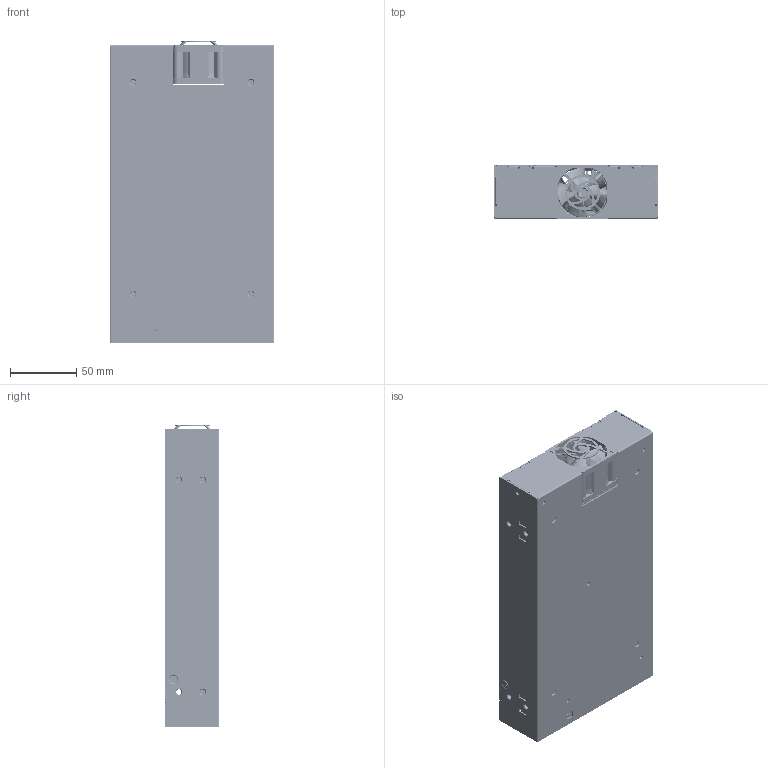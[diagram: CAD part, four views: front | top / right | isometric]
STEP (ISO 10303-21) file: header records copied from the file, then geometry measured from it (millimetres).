
FILE_DESCRIPTION((''),'2;1');
FILE_NAME('600W_ASM','2023-11-20T17:43:19',('EUNICE.HUANG'),(''),'CREO PARAMETRIC BY PTC INC, 2020053','CREO PARAMETRIC BY PTC INC, 2020053','');
FILE_SCHEMA(('CONFIG_CONTROL_DESIGN','GEOMETRIC_VALIDATION_PROPERTIES_MIM'));
Products named in the file (584): CHASSIS; STANF-OFF-M3-4_3; STANF-OFF-M3_5_5; 324859810000; 330848870000_ASM; 330848850000; 324859800000; COVER_ASM; IMPELLER; 4028AIFRAME; 4028SERIES_B-ASM_ASM; 4028SERIES-ASM_ASM; BOARD; 3466844702; TM104-3466844702_ASM; TM104_ASM; CX1-1604218A73; CX1_ASM; 3466635800-21431; 3466635800-21421_ASM; TM102_ASM; 3466584500; TM103-3466584500_ASM; TM103_ASM; RL1-0720725197; RL1_ASM; 1552491286-26536; 1552491286-26526_ASM; C40_ASM; 2921994000; FB43_ASM; 145411810240_L_1; 145411810240_L_2; 145411810240_L_3; 145411810240_L_ASM; C1_ASM; C7_ASM; C9_ASM; 3411010800; J12_ASM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
Assembly tree (905 placements, depth 9):
  600W_ASM
    330848870000_ASM
      CHASSIS
      STANF-OFF-M3-4_3  x3
      STANF-OFF-M3_5_5  x2
      324859810000
    COVER_ASM
      330848850000
      324859800000
    4028SERIES-ASM_ASM
      4028SERIES_B-ASM_ASM
        IMPELLER
        4028AIFRAME
    PMR-12V600W1BTR2C0-1227-3_ASM
      PCB_ASM
        BOARD
        TM104_ASM
          TM104-3466844702_ASM
            3466844702
        CX1_ASM
          CX1-1604218A73
        TM102_ASM
          3466635800-21421_ASM
            3466635800-21431
        TM103_ASM
          TM103-3466584500_ASM
            3466584500
        RL1_ASM
          RL1-0720725197
        C40_ASM
          1552491286-26526_ASM
            1552491286-26536
        FB43_ASM
          2921994000
        C1_ASM
          145411810240_L_ASM
            145411810240_L_1
            145411810240_L_2
            145411810240_L_3
        C7_ASM
          1552491286-26526_ASM
            1552491286-26536
        C9_ASM
          1552491286-26526_ASM
            1552491286-26536
        J12_ASM
          3411010800
        C2_ASM
          145411810240_L_ASM
            145411810240_L_1
            145411810240_L_2
            145411810240_L_3
        D105_ASM
          204840750107
        J36_ASM
          3411010400
        CY5_ASM
          _CY5CY6-110134926400
        FB54_ASM
          0343270142_ASM
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Bounding box: 124 x 41 x 228.5 mm (x, y, z)
Volume: 299026.8 mm3; surface area: 494218.2 mm2
Topology: 637 solids, 637 shells, 22084 faces, 58463 edges, 37320 vertices
Faces by surface type: plane 11722, cylinder 6836, torus 1925, bspline 1135, cone 258, sphere 151, extrusion 29, revolution 28
Entity records: 618915 total; most frequent: CARTESIAN_POINT 178492, ORIENTED_EDGE 67036, DIRECTION 65971, EDGE_CURVE 33518, PRESENTATION_STYLE_ASSIGNMENT 30054, STYLED_ITEM 28598, CURVE_STYLE 27115, AXIS2_PLACEMENT_3D 23701
